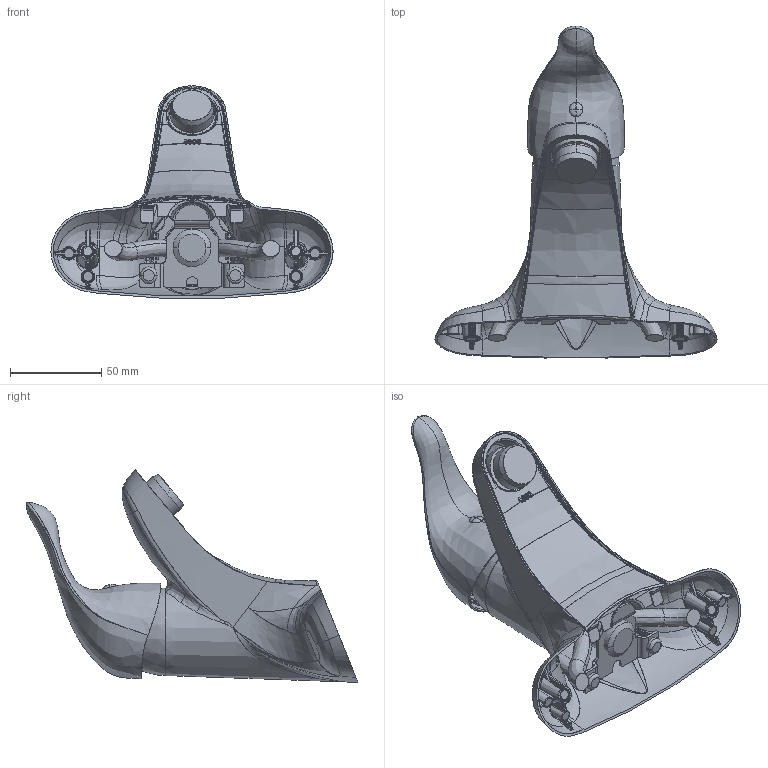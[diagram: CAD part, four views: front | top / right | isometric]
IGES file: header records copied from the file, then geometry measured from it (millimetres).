
Start section:  PTC IGES file: sku_l4601.igs
Global section: file name: sku_l4601.igs; native system: Pro/ENGINEER by Parametric Technology Corporation; preprocessor: 2006460; author: 9dutterb; organization: Unknown; date: 20071214.180308; units: inch
Bounding box: 154.94 x 182.16 x 116.68 mm (x, y, z)
Surface area: 112644.7 mm2 (no closed solid volume)
Topology: 0 solids, 0 shells, 1810 faces, 9404 edges, 9392 vertices
Faces by surface type: bspline 1084, revolution 699, extrusion 27
